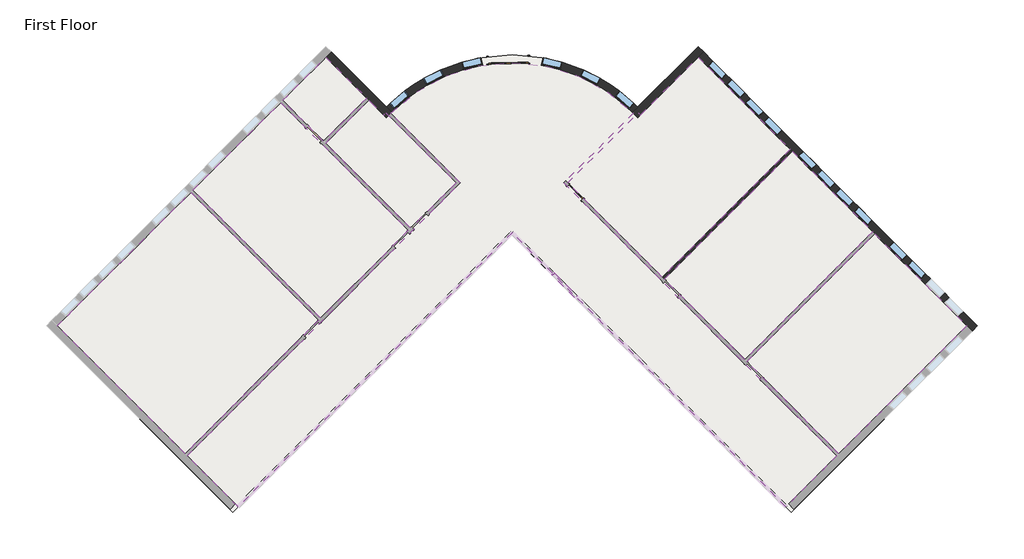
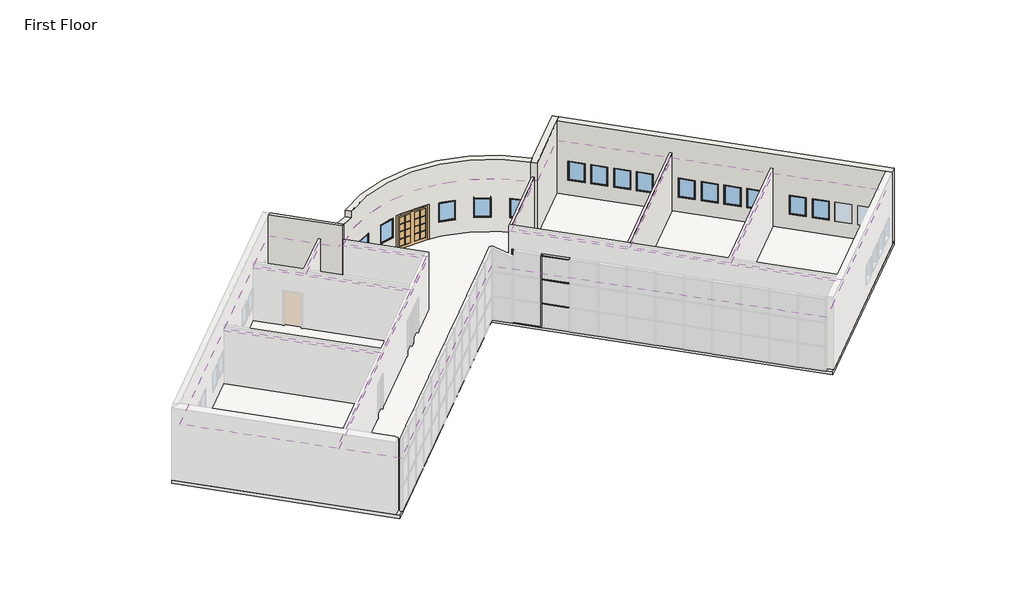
# One storey, part 4 of 4: 16 windows, 8 coverings, 7 members, 6 walls, 2 doors, 1 slab.
"""IFC4 building model written with IfcOpenShell, lengths in millimetres."""

from ifc_helpers import new_model, si_unit, point, frame, frame_2d, origin, origin_with_axes, place, context, project, spatial, polyline, circle_curve, ellipse_curve, trimmed, segment, composite_curve, outline, extrude, faceted_brep, transform, mapped, element, save
from ifc_brep_helpers import plane_surface, cylinder_surface, revolved_surface, advanced_brep
from components import m_double_glass_2_1830_x_2134mm_ef281dce, m_single_glass_1_0915_x_2134mm_4e5e1233, rectangular_mullion_50_x_150mm_40297ad3, rectangular_mullion_50_x_150mm_f494fff1, rectangular_mullion_50_x_150mm_5da8f88f, m_fixed_0915_x_1220mm_bde29121, m_fixed_0915_x_1220mm_2a2509e7

model = new_model("IFC4")

# Units and contexts
model_context = context("Model", 3, world=origin())
ifc_project = project(units=[si_unit("LENGTHUNIT", "METRE", prefix="MILLI")], contexts=[model_context])

# Site, building, storey
site = spatial("IfcSite", under=ifc_project)
building = spatial("IfcBuilding", under=site)
storey = spatial("IfcBuildingStorey", under=building, Name="First Floor", Elevation=0.0)

# Coverings
placement = place(None, origin())
element("IfcCovering", 1, ObjectType="600 x 600mm grid", at=placement, inside=storey, context=model_context, shape_type="SweptSolid", body=[
    extrude(outline(polyline([(-10551.8033322, -2052.473346), (-16737.0431239, -8237.7131378), (-22658.8856396, -2315.870622), (-16473.6458479, 3869.3691697), (-10551.8033322, -2052.473346)])), frame((0.0, 0.0, 3353.0), z_axis=(0.0, 0.0, 1.0), x_axis=(1.0, 0.0, 0.0)), (0.0, 0.0, 1.0), 52.0),
])
element("IfcCovering", 2, ObjectType="600 x 600mm grid", at=placement, inside=storey, context=model_context, shape_type="SweptSolid", body=[
    extrude(outline(polyline([(-16375.7115587, 3967.3034589), (-12319.9238385, 8023.0911791), (-6398.0813228, 2101.2486633), (-10453.869043, -1954.5390569), (-16375.7115587, 3967.3034589)])), frame((0.0, 0.0, 3353.0), z_axis=(0.0, 0.0, 1.0), x_axis=(1.0, 0.0, 0.0)), (0.0, 0.0, 1.0), 52.0),
])
element("IfcCovering", 3, ObjectType="600 x 600mm grid", at=placement, inside=storey, context=model_context, shape_type="SweptSolid", body=[
    extrude(outline(polyline([(-8233.7305267, 8132.1624001), (-7543.133828, 7441.5657013), (-7436.5374807, 7548.1620486), (-4193.8527091, 4305.477277), (-6300.1470336, 2199.1829525), (-10233.4285039, 6132.4644229), (-8233.7305267, 8132.1624001)])), frame((0.0, 0.0, 3353.0), z_axis=(0.0, 0.0, 1.0), x_axis=(1.0, 0.0, 0.0)), (0.0, 0.0, 1.0), 52.0),
])
element("IfcCovering", 4, ObjectType="600 x 600mm grid", at=placement, inside=storey, context=model_context, shape_type="SweptSolid", body=[
    extrude(outline(polyline([(-12221.9895493, 8121.0254683), (-10222.2915721, 10120.7234455), (-8331.6648159, 8230.0966893), (-10331.3627931, 6230.3987121), (-12221.9895493, 8121.0254683)])), frame((0.0, 0.0, 3353.0), z_axis=(0.0, 0.0, 1.0), x_axis=(1.0, 0.0, 0.0)), (0.0, 0.0, 1.0), 52.0),
])
element("IfcCovering", 5, ObjectType="600 x 600mm grid", at=placement, inside=storey, context=model_context, shape_type="SweptSolid", body=[
    extrude(outline(composite_curve([segment(polyline([(795.4927389, 4305.477277), (13436.6174429, -8335.647427), (11082.835745, -10689.4291248), (-1601.2456959, 1994.6523161), (-14285.3271368, -10689.4291248), (-16639.1088347, -8335.647427), (-3997.9841307, 4305.477277), (-7216.038281, 7523.5314273)]), True, "CONTINUOUS"), segment(trimmed(circle_curve(frame_2d((-1601.2456959, 1994.6523161)), 7880.0), [point((-7216.038281, 7523.5314273))], [point((4013.5468892, 7523.5314273))], False, "CARTESIAN"), True, "CONTINUOUS"), segment(polyline([(4013.5468892, 7523.5314273), (795.4927389, 4305.477277)]), True, "CONTINUOUS")], self_intersect=False)), frame((0.0, 0.0, 3353.0), z_axis=(0.0, 0.0, 1.0), x_axis=(1.0, 0.0, 0.0)), (0.0, 0.0, 1.0), 52.0),
])
element("IfcCovering", 6, ObjectType="600 x 600mm grid", at=placement, inside=storey, context=model_context, shape_type="SweptSolid", body=[
    extrude(outline(polyline([(4234.0460889, 7548.1620486), (4340.6424361, 7441.5657013), (7019.8001803, 10120.7234455), (11281.3559738, 5859.167652), (5359.5134581, -62.6748638), (991.3613173, 4305.477277), (4234.0460889, 7548.1620486)])), frame((0.0, 0.0, 3353.0), z_axis=(0.0, 0.0, 1.0), x_axis=(1.0, 0.0, 0.0)), (0.0, 0.0, 1.0), 52.0),
])
element("IfcCovering", 7, ObjectType="600 x 600mm grid", at=placement, inside=storey, context=model_context, shape_type="SweptSolid", body=[
    extrude(outline(polyline([(11379.290263, 5761.2333628), (15096.9041651, 2043.6194607), (9175.0616494, -3878.2230551), (5457.4477473, -160.609153), (11379.290263, 5761.2333628)])), frame((0.0, 0.0, 3353.0), z_axis=(0.0, 0.0, 1.0), x_axis=(1.0, 0.0, 0.0)), (0.0, 0.0, 1.0), 52.0),
])
element("IfcCovering", 8, ObjectType="600 x 600mm grid", at=placement, inside=storey, context=model_context, shape_type="SweptSolid", body=[
    extrude(outline(polyline([(15194.8384543, 1945.6851715), (19456.3942478, -2315.870622), (13534.5517321, -8237.7131378), (9272.9959386, -3976.1573443), (15194.8384543, 1945.6851715)])), frame((0.0, 0.0, 3353.0), z_axis=(0.0, 0.0, 1.0), x_axis=(1.0, 0.0, 0.0)), (0.0, 0.0, 1.0), 52.0),
])

# Doors
m_double_glass_2_1830_x_2134mm_shape = m_double_glass_2_1830_x_2134mm_ef281dce(model_context)
element("IfcDoor", 9, ObjectType="M_Double-Glass 2 : 1830 x 2134mm", at=placement, inside=storey, context=model_context, shape_type="MappedRepresentation", body=[
    mapped(m_double_glass_2_1830_x_2134mm_shape, transform((-1775.1372024, 9996.7407669, 0.0), x_axis=(-0.9997639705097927, -0.021725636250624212, 0.0), y_axis=(0.021725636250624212, -0.9997639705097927, 0.0), z_axis=(0.0, 0.0, 1.0))),
])
m_single_glass_1_0915_x_2134mm_shape = m_single_glass_1_0915_x_2134mm_4e5e1233(model_context)
element("IfcDoor", 10, ObjectType="M_Single-Glass 1 : 0915 x 2134mm", at=placement, inside=storey, context=model_context, shape_type="MappedRepresentation", body=[
    mapped(m_single_glass_1_0915_x_2134mm_shape, transform((1324.7621646, 3874.1421405, 0.0), x_axis=(-0.7071067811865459, 0.7071067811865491, 0.0), y_axis=(-0.7071067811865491, -0.7071067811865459, 0.0), z_axis=(0.0, 0.0, 1.0))),
])

# Members
rectangular_mullion_50_x_150mm_shape = rectangular_mullion_50_x_150mm_40297ad3(model_context)
element("IfcMember", 11, ObjectType="Rectangular Mullion : 50 x 150mm", at=placement, inside=storey, context=model_context, shape_type="MappedRepresentation", body=[
    mapped(rectangular_mullion_50_x_150mm_shape, transform((306.5283995, 86.8782206, 0.0), x_axis=(-0.7071067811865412, 0.7071067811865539, 0.0), y_axis=(0.7071067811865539, 0.7071067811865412, 0.0), z_axis=(0.0, 0.0, -1.0))),
])
rectangular_mullion_50_x_150mm_2_shape = rectangular_mullion_50_x_150mm_f494fff1(model_context)
element("IfcMember", 12, ObjectType="Rectangular Mullion : 50 x 150mm", at=placement, inside=storey, context=model_context, shape_type="MappedRepresentation", body=[
    mapped(rectangular_mullion_50_x_150mm_2_shape, transform((324.206069, 69.2005511, 1524.0), x_axis=(0.0, 0.0, 1.0), y_axis=(0.7071067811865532, 0.7071067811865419, 0.0), z_axis=(-0.7071067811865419, 0.7071067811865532, 0.0))),
])
element("IfcMember", 13, ObjectType="Rectangular Mullion : 50 x 150mm", at=placement, inside=storey, context=model_context, shape_type="MappedRepresentation", body=[
    mapped(rectangular_mullion_50_x_150mm_2_shape, transform((324.206069, 69.2005511, 3048.0), x_axis=(0.0, 0.0, 1.0), y_axis=(0.7071067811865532, 0.7071067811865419, 0.0), z_axis=(-0.7071067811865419, 0.7071067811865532, 0.0))),
])
rectangular_mullion_50_x_150mm_3_shape = rectangular_mullion_50_x_150mm_5da8f88f(model_context)
element("IfcMember", 14, ObjectType="Rectangular Mullion : 50 x 150mm", at=placement, inside=storey, context=model_context, shape_type="MappedRepresentation", body=[
    mapped(rectangular_mullion_50_x_150mm_3_shape, transform((288.85073, 104.5558902, 0.0), x_axis=(0.0, 0.0, -1.0), y_axis=(0.7071067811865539, 0.7071067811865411, 0.0), z_axis=(0.7071067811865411, -0.7071067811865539, 0.0))),
])
element("IfcMember", 15, ObjectType="Rectangular Mullion : 50 x 150mm", at=placement, inside=storey, context=model_context, shape_type="MappedRepresentation", body=[
    mapped(rectangular_mullion_50_x_150mm_3_shape, transform((324.206069, 69.2005511, 4572.0), x_axis=(0.0, 0.0, 1.0), y_axis=(0.7071067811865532, 0.7071067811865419, 0.0), z_axis=(-0.7071067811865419, 0.7071067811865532, 0.0))),
])
element("IfcMember", 16, ObjectType="Rectangular Mullion : 50 x 150mm", at=placement, inside=storey, context=model_context, shape_type="MappedRepresentation", body=[
    mapped(rectangular_mullion_50_x_150mm_shape, transform((306.5283995, 86.8782206, 1524.0), x_axis=(-0.7071067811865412, 0.7071067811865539, 0.0), y_axis=(0.7071067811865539, 0.7071067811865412, 0.0), z_axis=(0.0, 0.0, -1.0))),
])
element("IfcMember", 17, ObjectType="Rectangular Mullion : 50 x 150mm", at=placement, inside=storey, context=model_context, shape_type="MappedRepresentation", body=[
    mapped(rectangular_mullion_50_x_150mm_shape, transform((306.5283995, 86.8782206, 3048.0), x_axis=(-0.7071067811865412, 0.7071067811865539, 0.0), y_axis=(0.7071067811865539, 0.7071067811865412, 0.0), z_axis=(0.0, 0.0, -1.0))),
])

# Slab
element("IfcSlab", 18, ObjectType="160mm Concrete With 50mm Metal Deck", at=placement, inside=storey, context=model_context, shape_type="SweptSolid", body=[
    extrude(outline(composite_curve([segment(polyline([(-10222.2915721, 10615.6981923), (-7420.7345051, 7814.1411252)]), True, "CONTINUOUS"), segment(trimmed(circle_curve(frame_2d((-1601.2456959, 1994.6523161)), 8230.0), [point((-7420.7345051, 7814.1411252))], [point((4218.2431133, 7814.1411252))], False, "CARTESIAN"), True, "CONTINUOUS"), segment(polyline([(4218.2431133, 7814.1411252), (7019.8001803, 10615.6981923), (19951.3689947, -2315.870622), (11330.3231184, -10936.9164983), (-1601.2456959, 1994.6523161), (-14532.8145102, -10936.9164983), (-23153.8603865, -2315.870622), (-10222.2915721, 10615.6981923)]), True, "CONTINUOUS")], self_intersect=False)), frame((0.0, 0.0, -210.0), z_axis=(0.0, 0.0, 1.0), x_axis=(1.0, 0.0, 0.0)), (0.0, 0.0, 1.0), 210.0),
])

# Walls
element("IfcWall", 19, ObjectType="Exterior - Brick on Mtl. Stud", at=placement, inside=storey, context=model_context, shape_type="AdvancedBrep", body=[
    advanced_brep(
    [(4212.7441701, 7313.6674352, 4572.0), (4212.7441701, 7313.6674352, 0.0), (7019.8001803, 10120.7234455, 0.0), (7267.2875537, 10368.2108189, 0.0), (7267.2875537, 10368.2108189, 4572.0), (7019.8001803, 10120.7234455, 4572.0), (3970.7557398, 7566.6537518, 0.0), (3970.7557398, 7566.6537518, 4572.0), (4218.2431133, 7814.1411252, 4572.0), (7019.8001803, 10615.6981923, 4572.0), (7019.8001803, 10615.6981923, 0.0), (4218.2431133, 7814.1411252, 0.0), (4109.8638796, 7423.9826013, 0.0), (4013.5506313, 7523.5275434, 0.0)],
    [
        (0, 1),
        (1, 2),
        (2, 3),
        (3, 4),
        (4, 5),
        (5, 0),
        (6, 7),
        (7, 8),
        (8, 9),
        (9, 10),
        (10, 11),
        (11, 6),
        (1, 12, circle_curve(frame((-1601.2456959, 1994.6523161, 0.0), z_axis=(0.0, 0.0, 1.0), x_axis=(1.0, 0.0, 0.0)), 7880.0)),
        (12, 13, circle_curve(frame((-1601.2456959, 1994.6523161, 0.0), z_axis=(0.0, 0.0, 1.0), x_axis=(1.0, 0.0, 0.0)), 7879.9999955)),
        (13, 6, circle_curve(frame((-1601.2456959, 1994.6523161, 0.0), z_axis=(0.0, 0.0, 1.0), x_axis=(1.0, 0.0, 0.0)), 7879.9999413)),
        (10, 3),
        (4, 9),
        (7, 0, circle_curve(frame((-1601.2456959, 1994.6523161, 4572.0), z_axis=(0.0, 0.0, -1.0), x_axis=(1.0, 0.0, 0.0)), 7880.0)),
    ],
    [
        plane_surface(frame((4250.0629184, 7350.9861836, 0.0), z_axis=(0.7071067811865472, -0.7071067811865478, 0.0), x_axis=(0.7071067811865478, 0.7071067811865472, 0.0))),
        plane_surface(frame((4002.575545, 7598.473557, 0.0), z_axis=(-0.7071067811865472, 0.7071067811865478, 0.0), x_axis=(-0.7071067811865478, -0.7071067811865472, 0.0))),
        plane_surface(frame((4340.6424361, 7441.5657013, 0.0), z_axis=(0.0, 0.0, -1.0), x_axis=(-0.7071067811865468, 0.7071067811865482, 0.0))),
        plane_surface(frame((7143.543867, 10244.4671322, 4572.0), z_axis=(0.0, 0.0, 1.0), x_axis=(-0.707106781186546, 0.7071067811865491, 0.0))),
        plane_surface(frame((7019.8001803, 10615.6981923, 0.0), z_axis=(0.7071067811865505, 0.7071067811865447, 0.0), x_axis=(-0.7071067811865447, 0.7071067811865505, 0.0))),
        revolved_surface(polyline([(6278.7543041, 1994.6523161, 0.0), (6278.7543041, 1994.6523161, 4572.0)]), (-1601.2456959, 1994.6523161, 0.0), (0.0, 0.0, -1.0)),
    ],
    [
        (0, [[1, 2, 3, 4, 5, 6]]),
        (1, [[7, 8, 9, 10, 11, 12]]),
        (2, [[-3, -2, 13, 14, 15, -12, -11, 16]]),
        (3, [[-6, -5, 17, -9, -8, 18]]),
        (4, [[-4, -16, -10, -17]]),
        (5, [[-18, -7, -15, -14, -13, -1]]),
    ],
),
])
element("IfcWall", 20, ObjectType="Exterior - Brick on Mtl. Stud", at=placement, inside=storey, context=model_context, shape_type="Brep", body=[
    faceted_brep([(7019.8001803, 10120.7234455, 0.0), (11281.3559738, 5859.167652, 0.0), (11379.290263, 5761.2333628, 0.0), (15096.9041651, 2043.6194607, 0.0), (15194.8384543, 1945.6851715, 0.0), (19456.3942478, -2315.870622, 0.0), (19703.8816212, -2563.3579955, 0.0), (19703.8816212, -2563.3579955, 4572.0), (19456.3942478, -2315.870622, 4572.0), (7019.8001803, 10120.7234455, 4572.0), (19041.6761207, -1901.1524949, 915.0), (18394.6734159, -1254.1497901, 915.0), (18394.6734159, -1254.1497901, 2135.0), (19041.6761207, -1901.1524949, 2135.0), (18179.7129544, -1039.1893286, 915.0), (17532.7102496, -392.1866238, 915.0), (17532.7102496, -392.1866238, 2135.0), (18179.7129544, -1039.1893286, 2135.0), (17317.7497881, -177.2261623, 915.0), (16670.7470833, 469.7765424, 915.0), (16670.7470833, 469.7765424, 2135.0), (17317.7497881, -177.2261623, 2135.0), (16455.7866219, 684.7370039, 915.0), (15808.7839171, 1331.7397087, 915.0), (15808.7839171, 1331.7397087, 2135.0), (16455.7866219, 684.7370039, 2135.0), (12257.1680181, 4883.3556077, 915.0), (11610.1653133, 5530.3583124, 915.0), (11610.1653133, 5530.3583124, 2135.0), (12257.1680181, 4883.3556077, 2135.0), (13119.1311844, 4021.3924414, 915.0), (12472.1284796, 4668.3951462, 915.0), (12472.1284796, 4668.3951462, 2135.0), (13119.1311844, 4021.3924414, 2135.0), (13981.0943507, 3159.4292751, 915.0), (13334.0916459, 3806.4319799, 915.0), (13334.0916459, 3806.4319799, 2135.0), (13981.0943507, 3159.4292751, 2135.0), (14843.0575169, 2297.4661089, 915.0), (14196.0548121, 2944.4688136, 915.0), (14196.0548121, 2944.4688136, 2135.0), (14843.0575169, 2297.4661089, 2135.0), (8081.5210123, 9059.0026135, 915.0), (7434.5183075, 9706.0053183, 915.0), (7434.5183075, 9706.0053183, 2135.0), (8081.5210123, 9059.0026135, 2135.0), (8943.4841785, 8197.0394473, 915.0), (8296.4814737, 8844.042152, 915.0), (8296.4814737, 8844.042152, 2135.0), (8943.4841785, 8197.0394473, 2135.0), (9805.4473448, 7335.076281, 915.0), (9158.44464, 7982.0789858, 915.0), (9158.44464, 7982.0789858, 2135.0), (9805.4473448, 7335.076281, 2135.0), (10667.4105111, 6473.1131147, 915.0), (10020.4078063, 7120.1158195, 915.0), (10020.4078063, 7120.1158195, 2135.0), (10667.4105111, 6473.1131147, 2135.0), (7267.2875537, 10368.2108189, 0.0), (7267.2875537, 10368.2108189, 4572.0), (19951.3689947, -2315.870622, 4572.0), (19951.3689947, -2315.870622, 0.0), (19289.1634941, -1653.6651215, 915.0), (19289.1634941, -1653.6651215, 2135.0), (18642.1607893, -1006.6624167, 2135.0), (18642.1607893, -1006.6624167, 915.0), (18427.2003278, -791.7019552, 915.0), (18427.2003278, -791.7019552, 2135.0), (17780.197623, -144.6992504, 2135.0), (17780.197623, -144.6992504, 915.0), (17565.2371615, 70.2612111, 915.0), (17565.2371615, 70.2612111, 2135.0), (16918.2344568, 717.2639159, 2135.0), (16918.2344568, 717.2639159, 915.0), (16703.2739953, 932.2243773, 915.0), (16703.2739953, 932.2243773, 2135.0), (16056.2712905, 1579.2270821, 2135.0), (16056.2712905, 1579.2270821, 915.0), (12504.6553915, 5130.8429811, 915.0), (12504.6553915, 5130.8429811, 2135.0), (11857.6526868, 5777.8456859, 2135.0), (11857.6526868, 5777.8456859, 915.0), (13366.6185578, 4268.8798148, 915.0), (13366.6185578, 4268.8798148, 2135.0), (12719.615853, 4915.8825196, 2135.0), (12719.615853, 4915.8825196, 915.0), (14228.5817241, 3406.9166485, 915.0), (14228.5817241, 3406.9166485, 2135.0), (13581.5790193, 4053.9193533, 2135.0), (13581.5790193, 4053.9193533, 915.0), (15090.5448903, 2544.9534823, 915.0), (15090.5448903, 2544.9534823, 2135.0), (14443.5421856, 3191.9561871, 2135.0), (14443.5421856, 3191.9561871, 915.0), (8329.0083857, 9306.4899869, 915.0), (8329.0083857, 9306.4899869, 2135.0), (7682.0056809, 9953.4926917, 2135.0), (7682.0056809, 9953.4926917, 915.0), (9190.971552, 8444.5268207, 915.0), (9190.971552, 8444.5268207, 2135.0), (8543.9688472, 9091.5295255, 2135.0), (8543.9688472, 9091.5295255, 915.0), (10052.9347182, 7582.5636544, 915.0), (10052.9347182, 7582.5636544, 2135.0), (9405.9320134, 8229.5663592, 2135.0), (9405.9320134, 8229.5663592, 915.0), (10914.8978845, 6720.6004881, 915.0), (10914.8978845, 6720.6004881, 2135.0), (10267.8951797, 7367.6031929, 2135.0), (10267.8951797, 7367.6031929, 915.0)], [[[0, 1, 2, 3, 4, 5, 6, 7, 8, 9], [10, 11, 12, 13], [14, 15, 16, 17], [18, 19, 20, 21], [22, 23, 24, 25], [26, 27, 28, 29], [30, 31, 32, 33], [34, 35, 36, 37], [38, 39, 40, 41], [42, 43, 44, 45], [46, 47, 48, 49], [50, 51, 52, 53], [54, 55, 56, 57]], [[58, 59, 60, 61], [62, 63, 64, 65], [66, 67, 68, 69], [70, 71, 72, 73], [74, 75, 76, 77], [78, 79, 80, 81], [82, 83, 84, 85], [86, 87, 88, 89], [90, 91, 92, 93], [94, 95, 96, 97], [98, 99, 100, 101], [102, 103, 104, 105], [106, 107, 108, 109]], [[6, 5, 4, 3, 2, 1, 0, 58, 61]], [[9, 8, 7, 60, 59]], [[0, 9, 59, 58]], [[7, 6, 61, 60]], [[63, 62, 10, 13]], [[64, 63, 13, 12]], [[65, 64, 12, 11]], [[62, 65, 11, 10]], [[67, 66, 14, 17]], [[68, 67, 17, 16]], [[69, 68, 16, 15]], [[66, 69, 15, 14]], [[71, 70, 18, 21]], [[72, 71, 21, 20]], [[73, 72, 20, 19]], [[70, 73, 19, 18]], [[75, 74, 22, 25]], [[76, 75, 25, 24]], [[77, 76, 24, 23]], [[74, 77, 23, 22]], [[79, 78, 26, 29]], [[80, 79, 29, 28]], [[81, 80, 28, 27]], [[78, 81, 27, 26]], [[83, 82, 30, 33]], [[84, 83, 33, 32]], [[85, 84, 32, 31]], [[82, 85, 31, 30]], [[87, 86, 34, 37]], [[88, 87, 37, 36]], [[89, 88, 36, 35]], [[86, 89, 35, 34]], [[91, 90, 38, 41]], [[92, 91, 41, 40]], [[93, 92, 40, 39]], [[90, 93, 39, 38]], [[95, 94, 42, 45]], [[96, 95, 45, 44]], [[97, 96, 44, 43]], [[94, 97, 43, 42]], [[99, 98, 46, 49]], [[100, 99, 49, 48]], [[101, 100, 48, 47]], [[98, 101, 47, 46]], [[103, 102, 50, 53]], [[104, 103, 53, 52]], [[105, 104, 52, 51]], [[102, 105, 51, 50]], [[107, 106, 54, 57]], [[108, 107, 57, 56]], [[109, 108, 56, 55]], [[106, 109, 55, 54]]]),
])
element("IfcWall", 21, ObjectType="Exterior - Brick on Mtl. Stud", at=placement, inside=storey, context=model_context, shape_type="AdvancedBrep", body=[
    advanced_brep(
    [(-10222.2915721, 10120.7234455, 0.0), (-8331.6648159, 8230.0966893, 0.0), (-8233.7305267, 8132.1624001, 0.0), (-7415.2355619, 7313.6674352, 0.0), (-7415.2355619, 7313.6674352, 4688.8367236), (-10222.2915721, 10120.7234455, 4688.8367236), (-9974.8041987, 10368.2108189, 0.0), (-9974.8041987, 10368.2108189, 4572.0), (-7420.7345051, 7814.1411252, 4572.0), (-7173.2471317, 7566.6537518, 4572.0), (-7173.2471317, 7566.6537518, 0.0), (-7420.7345051, 7814.1411252, 0.0), (-7312.3566207, 7423.9811885, 0.0), (-7216.038281, 7523.5314273, 0.0)],
    [
        (0, 1),
        (1, 2),
        (2, 3),
        (3, 4),
        (4, 5),
        (5, 0),
        (6, 7),
        (7, 8),
        (8, 9),
        (9, 10),
        (10, 11),
        (11, 6),
        (5, 7),
        (6, 0),
        (3, 12, circle_curve(frame((-1601.2456959, 1994.6523161, 0.0), z_axis=(0.0, 0.0, -1.0), x_axis=(1.0, 0.0, 0.0)), 7880.0)),
        (12, 13, circle_curve(frame((-1601.2456959, 1994.6523161, 0.0), z_axis=(0.0, 0.0, -1.0), x_axis=(1.0, 0.0, 0.0)), 7880.0)),
        (13, 10, circle_curve(frame((-1601.2456959, 1994.6523161, 0.0), z_axis=(0.0, 0.0, -1.0), x_axis=(1.0, 0.0, 0.0)), 7880.0)),
        (9, 4, ellipse_curve(frame((-1601.2456959, 1994.6523161, 4572.0), z_axis=(0.22390007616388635, 0.2239000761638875, 0.9485449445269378), x_axis=(0.6707225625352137, 0.6707225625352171, -0.3166425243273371)), 8307.4608594, 7880.0)),
    ],
    [
        plane_surface(frame((-10469.7789456, 10368.2108189, 0.0), z_axis=(-0.7071067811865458, -0.7071067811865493, 0.0), x_axis=(0.7071067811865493, -0.7071067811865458, 0.0))),
        plane_surface(frame((-10222.2915721, 10615.6981923, 0.0), z_axis=(0.7071067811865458, 0.7071067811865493, 0.0), x_axis=(-0.7071067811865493, 0.7071067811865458, 0.0))),
        plane_surface(frame((-22906.3730131, -2563.3579955, 0.0), z_axis=(-0.7071067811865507, 0.7071067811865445, 0.0), x_axis=(0.7071067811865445, 0.7071067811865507, 0.0))),
        revolved_surface(polyline([(6278.7543041, 1994.6523161, 0.0), (6278.7543041, 1994.6523161, 7202.495377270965)]), (-1601.2456959, 1994.6523161, 0.0), (0.0, 0.0, -1.0)),
        plane_surface(frame((124.0948502, 1994.6523161, 4164.7405634), z_axis=(0.22390007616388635, 0.2239000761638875, 0.9485449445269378), x_axis=(-0.7071067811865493, 0.7071067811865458, 0.0))),
        plane_surface(frame((-10098.5478854, 10491.9545056, 0.0), z_axis=(0.0, 0.0, -1.0000000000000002), x_axis=(-0.7071067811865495, 0.7071067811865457, 0.0))),
    ],
    [
        (0, [[1, 2, 3, 4, 5, 6]]),
        (1, [[7, 8, 9, 10, 11, 12]]),
        (2, [[-6, 13, -7, 14]]),
        (3, [[15, 16, 17, -10, 18, -4]]),
        (4, [[-5, -18, -9, -8, -13]]),
        (5, [[-3, -2, -1, -14, -12, -11, -17, -16, -15]]),
    ],
),
])
element("IfcWall", 22, ObjectType="Exterior - Brick on Mtl. Stud", at=placement, inside=storey, context=model_context, shape_type="AdvancedBrep", body=[
    advanced_brep(
    [(-7420.7345051, 7814.1411252, 0.0), (-7420.7345051, 7814.1411252, 4572.0), (-6493.7687298, 8612.515896, 4164.7405634), (-6493.7687298, 8612.515896, 4572.0), (4218.2431133, 7814.1411252, 4572.0), (4218.2431133, 7814.1411252, 0.0), (-864.1551557, 10191.5784189, 0.0), (-864.1551557, 10191.5784189, 2134.0), (-2693.7232217, 10151.8205046, 2134.0), (-2693.7232217, 10151.8205046, 0.0), (-6560.8584073, 8562.3872188, 915.0), (-6560.8584073, 8562.3872188, 2135.0), (-7259.2688911, 7971.2461222, 2135.0), (-7259.2688911, 7971.2461222, 915.0), (-3038.6037285, 10098.1640169, 915.0), (-3038.6037285, 10098.1640169, 2135.0), (-3929.264468, 9888.5251676, 2135.0), (-3929.264468, 9888.5251676, 915.0), (-4890.6166492, 9538.7187747, 915.0), (-4890.6166492, 9538.7187747, 2135.0), (-5707.7291441, 9126.9516431, 2135.0), (-5707.7291441, 9126.9516431, 915.0), (1688.1252574, 9538.7187747, 915.0), (2505.2377523, 9126.9516431, 915.0), (2505.2377523, 9126.9516431, 2135.0), (1688.1252574, 9538.7187747, 2135.0), (-163.8876633, 10098.1640169, 915.0), (726.7730762, 9888.5251676, 915.0), (726.7730762, 9888.5251676, 2135.0), (-163.8876633, 10098.1640169, 2135.0), (3358.3670155, 8562.3872188, 915.0), (4056.7774992, 7971.2461222, 915.0), (4056.7774992, 7971.2461222, 2135.0), (3358.3670155, 8562.3872188, 2135.0), (-7173.2471317, 7566.6537518, 4572.0), (-7173.2471317, 7566.6537518, 0.0), (-2686.0696858, 9799.6223295, 0.0), (-2686.0696858, 9799.6223295, 2134.0), (-856.5016198, 9839.3802439, 2134.0), (-856.5016198, 9839.3802439, 0.0), (3970.7557398, 7566.6537518, 0.0), (3970.7557398, 7566.6537518, 4572.0), (-6243.3914961, 8362.1386623, 4572.0), (-6243.3914961, 8362.1386623, 4164.7405634), (-6334.373084, 8294.8035149, 2135.0), (-6334.373084, 8294.8035149, 915.0), (-7032.7835678, 7703.6624182, 915.0), (-7032.7835678, 7703.6624182, 2135.0), (-2958.2842873, 9756.9230059, 2135.0), (-2958.2842873, 9756.9230059, 915.0), (-3848.9450268, 9547.2841566, 915.0), (-3848.9450268, 9547.2841566, 2135.0), (-4732.8553085, 9225.6564811, 915.0), (-5549.9678034, 8813.8893495, 915.0), (-5549.9678034, 8813.8893495, 2135.0), (-4732.8553085, 9225.6564811, 2135.0), (1530.3639167, 9225.6564811, 915.0), (1530.3639167, 9225.6564811, 2135.0), (2347.4764116, 8813.8893495, 2135.0), (2347.4764116, 8813.8893495, 915.0), (-244.2071045, 9756.9230059, 915.0), (-244.2071045, 9756.9230059, 2135.0), (646.453635, 9547.2841566, 2135.0), (646.453635, 9547.2841566, 915.0), (3131.8816922, 8294.8035149, 915.0), (3131.8816922, 8294.8035149, 2135.0), (3830.2921759, 7703.6624182, 2135.0), (3830.2921759, 7703.6624182, 915.0)],
    [
        (0, 1),
        (1, 2, ellipse_curve(frame((-1601.2456959, 1994.6523161, 4572.0), z_axis=(-0.22390007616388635, -0.2239000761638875, -0.9485449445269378), x_axis=(-0.6707225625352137, -0.6707225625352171, 0.3166425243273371)), 8676.447065, 8230.0)),
        (2, 3),
        (3, 4, circle_curve(frame((-1601.2456959, 1994.6523161, 4572.0), z_axis=(0.0, 0.0, -1.0), x_axis=(1.0, 0.0, 0.0)), 8230.0)),
        (4, 5),
        (5, 6, circle_curve(frame((-1601.2456959, 1994.6523161, 0.0), z_axis=(0.0, 0.0, 1.0), x_axis=(1.0, 0.0, 0.0)), 8230.0)),
        (6, 7),
        (7, 8, circle_curve(frame((-1601.2456959, 1994.6523161, 2134.0), z_axis=(0.0, 0.0, 1.0), x_axis=(1.0, 0.0, 0.0)), 8230.0)),
        (8, 9),
        (9, 0, circle_curve(frame((-1601.2456959, 1994.6523161, 0.0), z_axis=(0.0, 0.0, 1.0), x_axis=(1.0, 0.0, 0.0)), 8230.0)),
        (10, 11),
        (11, 12, circle_curve(frame((-1601.2456959, 1994.6523161, 2135.0), z_axis=(0.0, 0.0, 1.0), x_axis=(1.0, 0.0, 0.0)), 8230.0)),
        (12, 13),
        (13, 10, circle_curve(frame((-1601.2456959, 1994.6523161, 915.0), z_axis=(0.0, 0.0, -1.0), x_axis=(1.0, 0.0, 0.0)), 8230.0)),
        (14, 15),
        (15, 16, circle_curve(frame((-1601.2456959, 1994.6523161, 2135.0), z_axis=(0.0, 0.0, 1.0), x_axis=(1.0, 0.0, 0.0)), 8230.0)),
        (16, 17),
        (17, 14, circle_curve(frame((-1601.2456959, 1994.6523161, 915.0), z_axis=(0.0, 0.0, -1.0), x_axis=(1.0, 0.0, 0.0)), 8230.0)),
        (18, 19),
        (19, 20, circle_curve(frame((-1601.2456959, 1994.6523161, 2135.0), z_axis=(0.0, 0.0, 1.0), x_axis=(1.0, 0.0, 0.0)), 8230.0)),
        (20, 21),
        (21, 18, circle_curve(frame((-1601.2456959, 1994.6523161, 915.0), z_axis=(0.0, 0.0, -1.0), x_axis=(1.0, 0.0, 0.0)), 8230.0)),
        (22, 23, circle_curve(frame((-1601.2456959, 1994.6523161, 915.0), z_axis=(0.0, 0.0, -1.0), x_axis=(1.0, 0.0, 0.0)), 8230.0)),
        (23, 24),
        (24, 25, circle_curve(frame((-1601.2456959, 1994.6523161, 2135.0), z_axis=(0.0, 0.0, 1.0), x_axis=(1.0, 0.0, 0.0)), 8230.0)),
        (25, 22),
        (26, 27, circle_curve(frame((-1601.2456959, 1994.6523161, 915.0), z_axis=(0.0, 0.0, -1.0), x_axis=(1.0, 0.0, 0.0)), 8230.0)),
        (27, 28),
        (28, 29, circle_curve(frame((-1601.2456959, 1994.6523161, 2135.0), z_axis=(0.0, 0.0, 1.0), x_axis=(1.0, 0.0, 0.0)), 8230.0)),
        (29, 26),
        (30, 31, circle_curve(frame((-1601.2456959, 1994.6523161, 915.0), z_axis=(0.0, 0.0, -1.0), x_axis=(1.0, 0.0, 0.0)), 8230.0)),
        (31, 32),
        (32, 33, circle_curve(frame((-1601.2456959, 1994.6523161, 2135.0), z_axis=(0.0, 0.0, 1.0), x_axis=(1.0, 0.0, 0.0)), 8230.0)),
        (33, 30),
        (34, 35),
        (35, 36, circle_curve(frame((-1601.2456959, 1994.6523161, 0.0), z_axis=(0.0, 0.0, -1.0), x_axis=(1.0, 0.0, 0.0)), 7880.0)),
        (36, 37),
        (37, 38, circle_curve(frame((-1601.2456959, 1994.6523161, 2134.0), z_axis=(0.0, 0.0, -1.0), x_axis=(1.0, 0.0, 0.0)), 7880.0)),
        (38, 39),
        (39, 40, circle_curve(frame((-1601.2456959, 1994.6523161, 0.0), z_axis=(0.0, 0.0, -1.0), x_axis=(1.0, 0.0, 0.0)), 7880.0)),
        (40, 41),
        (41, 42, circle_curve(frame((-1601.2456959, 1994.6523161, 4572.0), z_axis=(0.0, 0.0, 1.0), x_axis=(1.0, 0.0, 0.0)), 7880.0)),
        (42, 43),
        (43, 34, ellipse_curve(frame((-1601.2456959, 1994.6523161, 4572.0), z_axis=(0.22390007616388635, 0.2239000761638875, 0.9485449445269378), x_axis=(0.6707225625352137, 0.6707225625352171, -0.3166425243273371)), 8307.4608594, 7880.0)),
        (44, 45),
        (45, 46, circle_curve(frame((-1601.2456959, 1994.6523161, 915.0), z_axis=(0.0, 0.0, 1.0), x_axis=(1.0, 0.0, 0.0)), 7880.0)),
        (46, 47),
        (47, 44, circle_curve(frame((-1601.2456959, 1994.6523161, 2135.0), z_axis=(0.0, 0.0, -1.0), x_axis=(1.0, 0.0, 0.0)), 7880.0)),
        (48, 49),
        (49, 50, circle_curve(frame((-1601.2456959, 1994.6523161, 915.0), z_axis=(0.0, 0.0, 1.0), x_axis=(1.0, 0.0, 0.0)), 7880.0)),
        (50, 51),
        (51, 48, circle_curve(frame((-1601.2456959, 1994.6523161, 2135.0), z_axis=(0.0, 0.0, -1.0), x_axis=(1.0, 0.0, 0.0)), 7880.0)),
        (52, 53, circle_curve(frame((-1601.2456959, 1994.6523161, 915.0), z_axis=(0.0, 0.0, 1.0), x_axis=(1.0, 0.0, 0.0)), 7880.0)),
        (53, 54),
        (54, 55, circle_curve(frame((-1601.2456959, 1994.6523161, 2135.0), z_axis=(0.0, 0.0, -1.0), x_axis=(1.0, 0.0, 0.0)), 7880.0)),
        (55, 52),
        (56, 57),
        (57, 58, circle_curve(frame((-1601.2456959, 1994.6523161, 2135.0), z_axis=(0.0, 0.0, -1.0), x_axis=(1.0, 0.0, 0.0)), 7880.0)),
        (58, 59),
        (59, 56, circle_curve(frame((-1601.2456959, 1994.6523161, 915.0), z_axis=(0.0, 0.0, 1.0), x_axis=(1.0, 0.0, 0.0)), 7880.0)),
        (60, 61),
        (61, 62, circle_curve(frame((-1601.2456959, 1994.6523161, 2135.0), z_axis=(0.0, 0.0, -1.0), x_axis=(1.0, 0.0, 0.0)), 7880.0)),
        (62, 63),
        (63, 60, circle_curve(frame((-1601.2456959, 1994.6523161, 915.0), z_axis=(0.0, 0.0, 1.0), x_axis=(1.0, 0.0, 0.0)), 7880.0)),
        (64, 65),
        (65, 66, circle_curve(frame((-1601.2456959, 1994.6523161, 2135.0), z_axis=(0.0, 0.0, -1.0), x_axis=(1.0, 0.0, 0.0)), 7880.0)),
        (66, 67),
        (67, 64, circle_curve(frame((-1601.2456959, 1994.6523161, 915.0), z_axis=(0.0, 0.0, 1.0), x_axis=(1.0, 0.0, 0.0)), 7880.0)),
        (0, 35),
        (34, 1),
        (4, 41),
        (40, 5),
        (8, 37),
        (36, 9),
        (7, 38),
        (6, 39),
        (10, 45),
        (44, 11),
        (47, 12),
        (46, 13),
        (14, 49),
        (48, 15),
        (51, 16),
        (50, 17),
        (18, 52),
        (55, 19),
        (54, 20),
        (53, 21),
        (56, 22),
        (25, 57),
        (24, 58),
        (23, 59),
        (60, 26),
        (29, 61),
        (28, 62),
        (27, 63),
        (64, 30),
        (33, 65),
        (32, 66),
        (31, 67),
        (3, 42),
        (2, 43),
    ],
    [
        cylinder_surface(frame((-1601.2456959, 1994.6523161, 0.0), z_axis=(0.0, 0.0, 1.0), x_axis=(1.0, 0.0, 0.0)), 8230.0),
        revolved_surface(polyline([(6278.7543041, 1994.6523161, 0.0), (6278.7543041, 1994.6523161, 7202.495377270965)]), (-1601.2456959, 1994.6523161, 0.0), (0.0, 0.0, -1.0)),
        plane_surface(frame((-10222.2915721, 10615.6981923, 0.0), z_axis=(-0.7071067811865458, -0.7071067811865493, 0.0), x_axis=(-0.7071067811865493, 0.7071067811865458, 0.0))),
        plane_surface(frame((4002.575545, 7598.473557, 0.0), z_axis=(0.7071067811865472, -0.7071067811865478, 0.0), x_axis=(-0.7071067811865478, -0.7071067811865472, 0.0))),
        plane_surface(frame((-2726.8330914, 11675.4607956, 0.0), z_axis=(0.9997639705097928, 0.021725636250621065, 0.0), x_axis=(0.021725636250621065, -0.9997639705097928, 0.0))),
        plane_surface(frame((-2726.8330914, 11675.4607956, 2134.0), z_axis=(0.0, 0.0, -1.0000000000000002), x_axis=(0.021725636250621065, -0.9997639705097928, 0.0))),
        plane_surface(frame((-897.2650253, 11715.21871, 2134.0), z_axis=(-0.9997639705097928, -0.021725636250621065, 0.0), x_axis=(0.021725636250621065, -0.9997639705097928, 0.0))),
        plane_surface(frame((-6560.8584073, 8562.3872188, 915.0), z_axis=(-0.7632901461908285, -0.6460558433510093, 0.0), x_axis=(0.6460558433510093, -0.7632901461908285, 0.0))),
        plane_surface(frame((-6560.8584073, 8562.3872188, 2135.0), z_axis=(0.0, 0.0, -1.0000000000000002), x_axis=(0.6460558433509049, -0.7632901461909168, 0.0))),
        plane_surface(frame((-7259.2688911, 7971.2461222, 2135.0), z_axis=(0.7632901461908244, 0.6460558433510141, 0.0), x_axis=(0.6460558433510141, -0.7632901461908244, 0.0))),
        plane_surface(frame((-7259.2688911, 7971.2461222, 915.0), z_axis=(0.0, 0.0, 1.0), x_axis=(0.6460558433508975, -0.7632901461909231, 0.0))),
        plane_surface(frame((-2689.4347599, 8614.7028508, 915.0), z_axis=(-0.9733997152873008, -0.22911349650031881, 0.0), x_axis=(-0.22911349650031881, 0.9733997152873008, 0.0))),
        plane_surface(frame((-2689.4347599, 8614.7028508, 2135.0), z_axis=(0.0, 0.0, -1.0), x_axis=(-0.22911349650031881, 0.9733997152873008, 0.0))),
        plane_surface(frame((-3580.0954993, 8405.0640015, 2135.0), z_axis=(0.9733997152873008, 0.2291134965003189, 0.0), x_axis=(-0.2291134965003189, 0.9733997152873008, 0.0))),
        plane_surface(frame((-3580.0954993, 8405.0640015, 915.0), z_axis=(0.0, 0.0, 1.0), x_axis=(-0.2291134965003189, 0.9733997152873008, 0.0))),
        plane_surface(frame((-4890.6166492, 9538.7187747, 915.0), z_axis=(-0.893019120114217, -0.45001872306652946, 0.0), x_axis=(0.45001872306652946, -0.893019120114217, 0.0))),
        plane_surface(frame((-4890.6166492, 9538.7187747, 2135.0), z_axis=(0.0, 0.0, -1.0), x_axis=(0.4500187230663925, -0.893019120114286, 0.0))),
        plane_surface(frame((-5707.7291441, 9126.9516431, 2135.0), z_axis=(0.8930191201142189, 0.4500187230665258, 0.0), x_axis=(0.4500187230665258, -0.8930191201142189, 0.0))),
        plane_surface(frame((-5707.7291441, 9126.9516431, 915.0), z_axis=(0.0, 0.0, 1.0), x_axis=(0.4500187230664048, -0.8930191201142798, 0.0))),
        plane_surface(frame((1530.3639167, 9225.6564811, 915.0), z_axis=(0.8930191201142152, -0.4500187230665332, 0.0), x_axis=(0.4500187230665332, 0.8930191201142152, 0.0))),
        plane_surface(frame((1530.3639167, 9225.6564811, 2135.0), z_axis=(0.0, 0.0, -1.0), x_axis=(0.4500187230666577, 0.8930191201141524, 0.0))),
        plane_surface(frame((2347.4764116, 8813.8893495, 2135.0), z_axis=(-0.8930191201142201, 0.4500187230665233, 0.0), x_axis=(0.4500187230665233, 0.8930191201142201, 0.0))),
        plane_surface(frame((2347.4764116, 8813.8893495, 915.0), z_axis=(0.0, 0.0, 1.0000000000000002), x_axis=(0.45001872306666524, 0.8930191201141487, 0.0))),
        plane_surface(frame((-244.2071045, 9756.9230059, 915.0), z_axis=(0.9733997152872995, -0.22911349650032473, 0.0), x_axis=(0.22911349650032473, 0.9733997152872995, 0.0))),
        plane_surface(frame((-244.2071045, 9756.9230059, 2135.0), z_axis=(0.0, 0.0, -1.0), x_axis=(0.2291134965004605, 0.9733997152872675, 0.0))),
        plane_surface(frame((646.453635, 9547.2841566, 2135.0), z_axis=(-0.9733997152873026, 0.22911349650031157, 0.0), x_axis=(0.22911349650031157, 0.9733997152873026, 0.0))),
        plane_surface(frame((646.453635, 9547.2841566, 915.0), z_axis=(0.0, 0.0, 1.0000000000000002), x_axis=(0.22911349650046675, 0.9733997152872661, 0.0))),
        plane_surface(frame((3131.8816922, 8294.8035149, 915.0), z_axis=(0.7632901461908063, -0.6460558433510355, 0.0), x_axis=(0.6460558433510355, 0.7632901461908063, 0.0))),
        plane_surface(frame((3131.8816922, 8294.8035149, 2135.0), z_axis=(0.0, 0.0, -1.0), x_axis=(0.646055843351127, 0.7632901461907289, 0.0))),
        plane_surface(frame((3830.2921759, 7703.6624182, 2135.0), z_axis=(-0.76329014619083, 0.6460558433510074, 0.0), x_axis=(0.6460558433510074, 0.76329014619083, 0.0))),
        plane_surface(frame((3830.2921759, 7703.6624182, 915.0), z_axis=(0.0, 0.0, 1.0), x_axis=(0.6460558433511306, 0.7632901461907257, 0.0))),
        plane_surface(frame((6628.7543041, 1994.6523161, 4572.0), z_axis=(0.0, 0.0, 1.0), x_axis=(0.0, 1.0, 0.0))),
        plane_surface(frame((-5049.098361, 7167.8455272, 4164.7405634), z_axis=(-0.7071067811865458, -0.7071067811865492, 0.0), x_axis=(-0.7071067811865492, 0.7071067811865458, 0.0))),
        plane_surface(frame((124.0948502, 1994.6523161, 4164.7405634), z_axis=(0.22390007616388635, 0.2239000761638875, 0.9485449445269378), x_axis=(-0.7071067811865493, 0.7071067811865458, 0.0))),
        plane_surface(frame((-10098.5478854, 10491.9545056, 0.0), z_axis=(0.0, 0.0, -1.0000000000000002), x_axis=(-0.7071067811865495, 0.7071067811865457, 0.0))),
    ],
    [
        (0, [[1, 2, 3, 4, 5, 6, 7, 8, 9, 10], [11, 12, 13, 14], [15, 16, 17, 18], [19, 20, 21, 22], [23, 24, 25, 26], [27, 28, 29, 30], [31, 32, 33, 34]]),
        (1, [[35, 36, 37, 38, 39, 40, 41, 42, 43, 44], [45, 46, 47, 48], [49, 50, 51, 52], [53, 54, 55, 56], [57, 58, 59, 60], [61, 62, 63, 64], [65, 66, 67, 68]]),
        (2, [[-1, 69, -35, 70]]),
        (3, [[71, -41, 72, -5]]),
        (4, [[73, -37, 74, -9]]),
        (5, [[-73, -8, 75, -38]]),
        (6, [[-75, -7, 76, -39]]),
        (7, [[-11, 77, -45, 78]]),
        (8, [[-12, -78, -48, 79]]),
        (9, [[-13, -79, -47, 80]]),
        (10, [[-14, -80, -46, -77]]),
        (11, [[81, -49, 82, -15]]),
        (12, [[-82, -52, 83, -16]]),
        (13, [[-83, -51, 84, -17]]),
        (14, [[-81, -18, -84, -50]]),
        (15, [[-19, 85, -56, 86]]),
        (16, [[-20, -86, -55, 87]]),
        (17, [[-21, -87, -54, 88]]),
        (18, [[-22, -88, -53, -85]]),
        (19, [[-57, 89, -26, 90]]),
        (20, [[-58, -90, -25, 91]]),
        (21, [[-59, -91, -24, 92]]),
        (22, [[-60, -92, -23, -89]]),
        (23, [[-61, 93, -30, 94]]),
        (24, [[-62, -94, -29, 95]]),
        (25, [[-63, -95, -28, 96]]),
        (26, [[-64, -96, -27, -93]]),
        (27, [[-65, 97, -34, 98]]),
        (28, [[-66, -98, -33, 99]]),
        (29, [[-67, -99, -32, 100]]),
        (30, [[-68, -100, -31, -97]]),
        (31, [[-71, -4, 101, -42]]),
        (32, [[-101, -3, 102, -43]]),
        (33, [[-2, -70, -44, -102]]),
        (34, [[-69, -10, -74, -36]]),
        (34, [[-72, -40, -76, -6]]),
    ],
),
])
element("IfcWall", 23, ObjectType="Interior - 138mm Partition (1-hr)", at=placement, inside=storey, context=model_context, shape_type="SweptSolid", body=[
    extrude(outline(composite_curve([segment(polyline([(4109.8652288, 7423.9811885), (991.3613173, 4305.477277), (893.4270281, 4403.4115662), (4013.5468892, 7523.5314273)]), True, "CONTINUOUS"), segment(trimmed(circle_curve(frame_2d((-1601.2456959, 1994.6523161)), 7880.0), [point((4013.5468892, 7523.5314273))], [point((4109.8652288, 7423.9811885))], False, "CARTESIAN"), True, "CONTINUOUS")], self_intersect=False)), origin_with_axes(), (0.0, 0.0, 1.0), 3658.0),
])
element("IfcWall", 24, ObjectType="Interior - 138mm Partition (1-hr)", at=placement, inside=storey, context=model_context, shape_type="SweptSolid", body=[
    extrude(outline(polyline([(11379.290263, 5761.2333628), (5457.4477473, -160.609153), (5359.5134581, -62.6748638), (11281.3559738, 5859.167652), (11379.290263, 5761.2333628)])), origin_with_axes(), (0.0, 0.0, 1.0), 3658.0),
])

# Windows
m_fixed_0915_x_1220mm_shape = m_fixed_0915_x_1220mm_bde29121(model_context)
element("IfcWindow", 25, ObjectType="M_Fixed : 0915 x 1220mm", at=placement, inside=storey, context=model_context, shape_type="MappedRepresentation", body=[
    mapped(m_fixed_0915_x_1220mm_shape, transform((-6805.4026025, 8143.1636668, 0.0), x_axis=(-0.7632901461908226, -0.6460558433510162, 0.0), y_axis=(0.6460558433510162, -0.7632901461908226, 0.0), z_axis=(0.0, 0.0, 1.0))),
])
element("IfcWindow", 26, ObjectType="M_Fixed : 0915 x 1220mm", at=placement, inside=storey, context=model_context, shape_type="MappedRepresentation", body=[
    mapped(m_fixed_0915_x_1220mm_shape, transform((-3446.8177118, 9835.6538384, 0.0), x_axis=(-0.9733997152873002, -0.22911349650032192, 0.0), y_axis=(0.22911349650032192, -0.9733997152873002, 0.0), z_axis=(0.0, 0.0, 1.0))),
])
element("IfcWindow", 27, ObjectType="M_Fixed : 0915 x 1220mm", at=placement, inside=storey, context=model_context, shape_type="MappedRepresentation", body=[
    mapped(m_fixed_0915_x_1220mm_shape, transform((-5226.2698635, 9188.1661114, 0.0), x_axis=(-0.8930191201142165, -0.45001872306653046, 0.0), y_axis=(0.45001872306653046, -0.8930191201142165, 0.0), z_axis=(0.0, 0.0, 1.0))),
])
element("IfcWindow", 28, ObjectType="M_Fixed : 0915 x 1220mm", at=placement, inside=storey, context=model_context, shape_type="MappedRepresentation", body=[
    mapped(m_fixed_0915_x_1220mm_shape, transform((17127.1845106, 279.2112649, 0.0), x_axis=(-0.7071067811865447, 0.7071067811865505, 0.0), y_axis=(-0.7071067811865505, -0.7071067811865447, 0.0), z_axis=(0.0, 0.0, 1.0))),
])
element("IfcWindow", 29, ObjectType="M_Fixed : 0915 x 1220mm", at=placement, inside=storey, context=model_context, shape_type="MappedRepresentation", body=[
    mapped(m_fixed_0915_x_1220mm_shape, transform((16265.2213443, 1141.1744312, 0.0), x_axis=(-0.7071067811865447, 0.7071067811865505, 0.0), y_axis=(-0.7071067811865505, -0.7071067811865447, 0.0), z_axis=(0.0, 0.0, 1.0))),
])
element("IfcWindow", 30, ObjectType="M_Fixed : 0915 x 1220mm", at=placement, inside=storey, context=model_context, shape_type="MappedRepresentation", body=[
    mapped(m_fixed_0915_x_1220mm_shape, transform((14652.4922394, 2753.9035361, 0.0), x_axis=(-0.7071067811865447, 0.7071067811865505, 0.0), y_axis=(-0.7071067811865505, -0.7071067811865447, 0.0), z_axis=(0.0, 0.0, 1.0))),
])
element("IfcWindow", 31, ObjectType="M_Fixed : 0915 x 1220mm", at=placement, inside=storey, context=model_context, shape_type="MappedRepresentation", body=[
    mapped(m_fixed_0915_x_1220mm_shape, transform((13790.5290731, 3615.8667024, 0.0), x_axis=(-0.7071067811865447, 0.7071067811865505, 0.0), y_axis=(-0.7071067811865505, -0.7071067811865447, 0.0), z_axis=(0.0, 0.0, 1.0))),
])
element("IfcWindow", 32, ObjectType="M_Fixed : 0915 x 1220mm", at=placement, inside=storey, context=model_context, shape_type="MappedRepresentation", body=[
    mapped(m_fixed_0915_x_1220mm_shape, transform((12928.5659069, 4477.8298686, 0.0), x_axis=(-0.7071067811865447, 0.7071067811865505, 0.0), y_axis=(-0.7071067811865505, -0.7071067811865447, 0.0), z_axis=(0.0, 0.0, 1.0))),
])
element("IfcWindow", 33, ObjectType="M_Fixed : 0915 x 1220mm", at=placement, inside=storey, context=model_context, shape_type="MappedRepresentation", body=[
    mapped(m_fixed_0915_x_1220mm_shape, transform((12066.6027406, 5339.7930349, 0.0), x_axis=(-0.7071067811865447, 0.7071067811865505, 0.0), y_axis=(-0.7071067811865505, -0.7071067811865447, 0.0), z_axis=(0.0, 0.0, 1.0))),
])
element("IfcWindow", 34, ObjectType="M_Fixed : 0915 x 1220mm", at=placement, inside=storey, context=model_context, shape_type="MappedRepresentation", body=[
    mapped(m_fixed_0915_x_1220mm_shape, transform((7890.9557347, 9515.4400408, 0.0), x_axis=(-0.7071067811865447, 0.7071067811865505, 0.0), y_axis=(-0.7071067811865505, -0.7071067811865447, 0.0), z_axis=(0.0, 0.0, 1.0))),
])
element("IfcWindow", 35, ObjectType="M_Fixed : 0915 x 1220mm", at=placement, inside=storey, context=model_context, shape_type="MappedRepresentation", body=[
    mapped(m_fixed_0915_x_1220mm_shape, transform((8752.918901, 8653.4768745, 0.0), x_axis=(-0.7071067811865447, 0.7071067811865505, 0.0), y_axis=(-0.7071067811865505, -0.7071067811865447, 0.0), z_axis=(0.0, 0.0, 1.0))),
])
element("IfcWindow", 36, ObjectType="M_Fixed : 0915 x 1220mm", at=placement, inside=storey, context=model_context, shape_type="MappedRepresentation", body=[
    mapped(m_fixed_0915_x_1220mm_shape, transform((9614.8820673, 7791.5137082, 0.0), x_axis=(-0.7071067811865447, 0.7071067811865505, 0.0), y_axis=(-0.7071067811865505, -0.7071067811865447, 0.0), z_axis=(0.0, 0.0, 1.0))),
])
element("IfcWindow", 37, ObjectType="M_Fixed : 0915 x 1220mm", at=placement, inside=storey, context=model_context, shape_type="MappedRepresentation", body=[
    mapped(m_fixed_0915_x_1220mm_shape, transform((10476.8452335, 6929.550542, 0.0), x_axis=(-0.7071067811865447, 0.7071067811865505, 0.0), y_axis=(-0.7071067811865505, -0.7071067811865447, 0.0), z_axis=(0.0, 0.0, 1.0))),
])
m_fixed_0915_x_1220mm_2_shape = m_fixed_0915_x_1220mm_2a2509e7(model_context)
element("IfcWindow", 38, ObjectType="M_Fixed : 0915 x 1220mm", at=placement, inside=storey, context=model_context, shape_type="MappedRepresentation", body=[
    mapped(m_fixed_0915_x_1220mm_2_shape, transform((3602.9112107, 8143.1636668, 0.0), x_axis=(0.7632901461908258, -0.6460558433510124, 0.0), y_axis=(0.6460558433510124, 0.7632901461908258, 0.0), z_axis=(0.0, 0.0, 1.0))),
])
element("IfcWindow", 39, ObjectType="M_Fixed : 0915 x 1220mm", at=placement, inside=storey, context=model_context, shape_type="MappedRepresentation", body=[
    mapped(m_fixed_0915_x_1220mm_2_shape, transform((244.32632, 9835.6538384, 0.0), x_axis=(0.9733997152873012, -0.2291134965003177, 0.0), y_axis=(0.2291134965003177, 0.9733997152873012, 0.0), z_axis=(0.0, 0.0, 1.0))),
])
element("IfcWindow", 40, ObjectType="M_Fixed : 0915 x 1220mm", at=placement, inside=storey, context=model_context, shape_type="MappedRepresentation", body=[
    mapped(m_fixed_0915_x_1220mm_2_shape, transform((2023.7784717, 9188.1661114, 0.0), x_axis=(0.8930191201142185, -0.4500187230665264, 0.0), y_axis=(0.4500187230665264, 0.8930191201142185, 0.0), z_axis=(0.0, 0.0, 1.0))),
])

save(model, "model.ifc")
